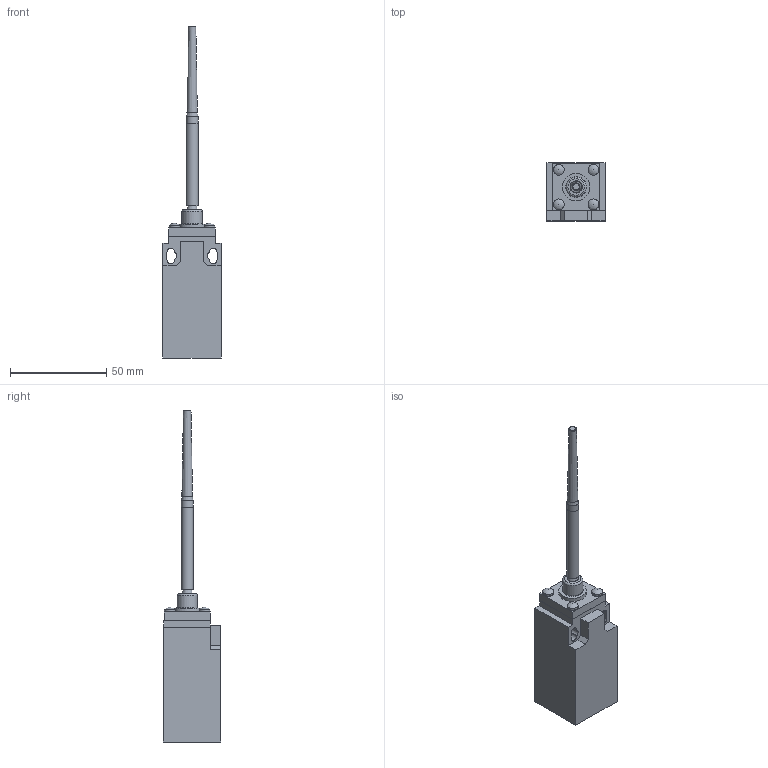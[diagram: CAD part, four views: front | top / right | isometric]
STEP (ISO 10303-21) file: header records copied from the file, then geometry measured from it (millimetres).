
FILE_DESCRIPTION((''),'2;1');
FILE_NAME('D:\Documenti_D\Corrispondenza\Comepi\Catalogo da fare\Modelli Nov 2011\AP\STEP\AP1-T92.iam.stp','2011-11-17T11:45:16',(''),(''),'Autodesk Inventor 2010','Autodesk Inventor 2010','');
FILE_SCHEMA(('AUTOMOTIVE_DESIGN { 1 0 10303 214 1 1 1 1 }'));
Length unit declared in the file: millimetre
Products named in the file (3): AP1-T92; AP1; T92.ipt
Assembly tree (2 placements, depth 2):
  AP1-T92
    AP1
    T92.ipt
Bounding box: 30.3 x 30 x 172.3 mm (x, y, z)
Volume: 55044.2 mm3; surface area: 14846.2 mm2
Topology: 2 solids, 2 shells, 68 faces, 160 edges, 102 vertices
Faces by surface type: plane 38, cylinder 15, torus 8, sphere 4, cone 3
Full cylindrical faces by diameter (mm): 5.6 x4, 6.2 x1, 6.3 x1, 10.5 x1, 14.325 x1, 20.4 x1
Entity records: 1890 total; most frequent: DIRECTION 320, CARTESIAN_POINT 303, ORIENTED_EDGE 264, EDGE_CURVE 132, AXIS2_PLACEMENT_3D 115, EDGE_LOOP 102, VERTEX_POINT 98, VECTOR 90
